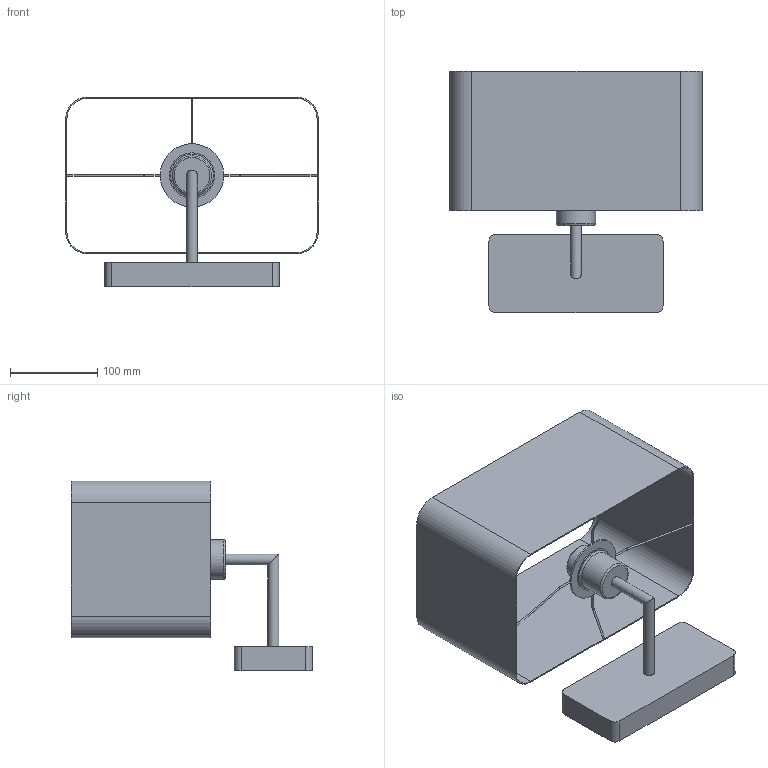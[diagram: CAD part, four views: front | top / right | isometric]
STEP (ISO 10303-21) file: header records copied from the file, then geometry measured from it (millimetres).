
FILE_DESCRIPTION (( 'STEP AP203' ), '1' );
FILE_NAME ('ROMEO-A39710.STEP', '2026-02-06T08:02:10', ( '' ), ( '' ), 'SwSTEP 2.0', 'SolidWorks 2025', '' );
FILE_SCHEMA (( 'CONFIG_CONTROL_DESIGN' ));
Length unit declared in the file: millimetre
Products named in the file (3): BASE APLIQUE ROMEO_A3971080; STILO_5PANT0034; ROMEO-A39710
Assembly tree (2 placements, depth 2):
  ROMEO-A39710
    BASE APLIQUE ROMEO_A3971080
    STILO_5PANT0034
Bounding box: 290 x 277 x 218 mm (x, y, z)
Volume: 390745.1 mm3; surface area: 417859.9 mm2
Topology: 3 solids, 4 shells, 81 faces, 188 edges, 119 vertices
Faces by surface type: cylinder 39, plane 34, torus 7, cone 1
Full cylindrical faces by diameter (mm): 2 x8, 12.5 x2, 28 x1, 40 x1, 40.3 x1, 45 x2, 52 x2
Entity records: 2573 total; most frequent: CARTESIAN_POINT 512, DIRECTION 388, ORIENTED_EDGE 314, AXIS2_PLACEMENT_3D 158, EDGE_CURVE 157, EDGE_LOOP 122, VERTEX_POINT 113, FACE_OUTER_BOUND 105
